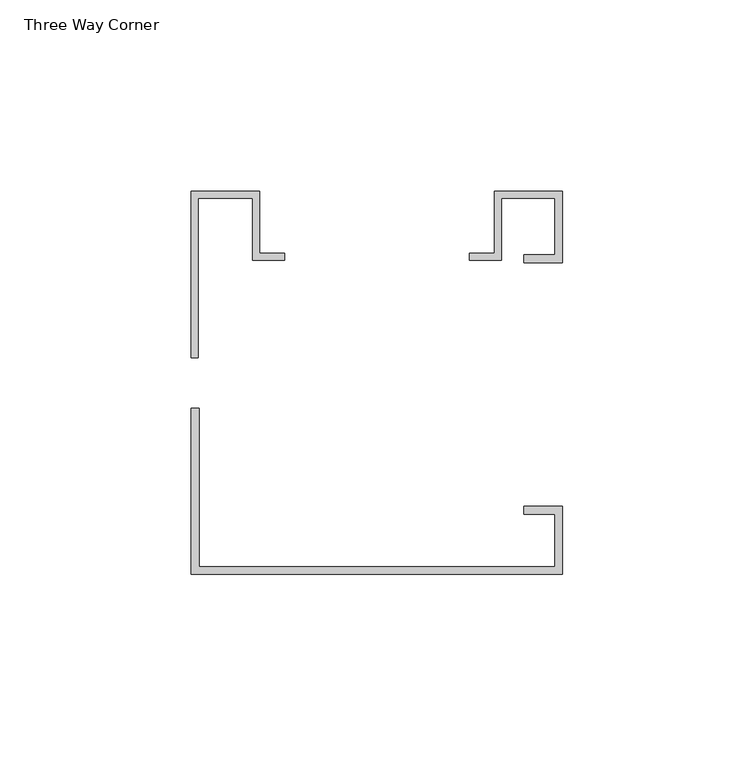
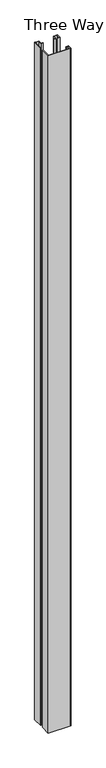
"""IFC4 building model written with IfcOpenShell, lengths in millimetres: proxy geometry, Connection-Corner-Teknion-OptosLP-Three_Way_FZCA3E_S : Three Way Corner."""

from ifc_helpers import new_model, si_unit, origin, origin_with_axes, place, context, project, spatial, polyline, outline, extrude, source, transform, mapped, element, save


def three_way_corner_72895751(model_context):
    return source(origin(), model_context, "Body", "SweptSolid", [
        extrude(outline(polyline([(-48.5000014, 50.3892045), (-30.7199992, 50.3892045), (-30.7199992, 34.2602026), (-24.1160002, 34.2602026), (-24.1160002, 32.4822034), (-32.4980021, 32.4822034), (-32.4980021, 48.6112054), (-46.7220023, 48.6112054), (-46.7220023, 6.955204), (-48.5000014, 6.955204), (-48.5000014, 50.3892045)])), origin_with_axes(), (0.0, 0.0, 1.0), 3048.0),
        extrude(outline(polyline([(48.4999977, -31.8307948), (48.4999977, -49.610797), (-48.5000014, -49.610797), (-48.5000014, -6.1767964), (-46.4680009, -6.1767964), (-46.4680009, -47.5787964), (46.4680009, -47.5787964), (46.4680009, -33.8627953), (38.3399986, -33.8627953), (38.3399986, -31.8307948), (48.4999977, -31.8307948)])), origin_with_axes(), (0.0, 0.0, 1.0), 3048.0),
        extrude(outline(polyline([(48.4999977, 50.3892045), (48.4999977, 31.8307948), (38.3399986, 31.8307948), (38.3399986, 33.8627953), (46.4680009, 33.8627953), (46.4680009, 48.6112054), (32.4980021, 48.6112054), (32.4980021, 32.4822034), (24.1160002, 32.4822034), (24.1160002, 34.2602026), (30.7199992, 34.2602026), (30.7199992, 50.3892045), (48.4999977, 50.3892045)])), origin_with_axes(), (0.0, 0.0, 1.0), 3048.0),
    ])


if __name__ == "__main__":
    model = new_model("IFC4")
    model_context = context("Model", 3, world=origin())
    ifc_project = project(units=[si_unit("LENGTHUNIT", "METRE", prefix="MILLI")], contexts=[model_context])
    site = spatial("IfcSite", under=ifc_project)
    building = spatial("IfcBuilding", under=site)
    placement = place(None, origin())
    three_way_corner_shape = three_way_corner_72895751(model_context)
    element("IfcBuildingElementProxy", 1, Name="Connection-Corner-Teknion-OptosLP-Three_Way_FZCA3E_S : Three Way Corner", ObjectType="Connection-Corner-Teknion-OptosLP-Three_Way_FZCA3E_S : Three Way Corner", at=placement, inside=building, context=model_context, shape_type="MappedRepresentation", body=[
        mapped(three_way_corner_shape, transform((0.0, 0.0, 0.0), x_axis=(1.0, 0.0, 0.0), y_axis=(0.0, 1.0, 0.0), z_axis=(0.0, 0.0, 1.0))),
    ])
    save(model, "model.ifc")
